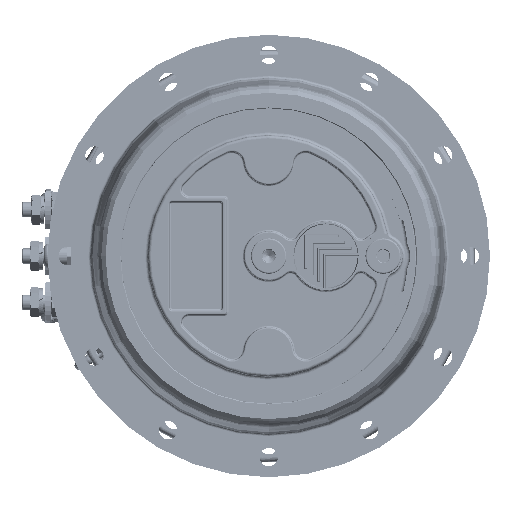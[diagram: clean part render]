
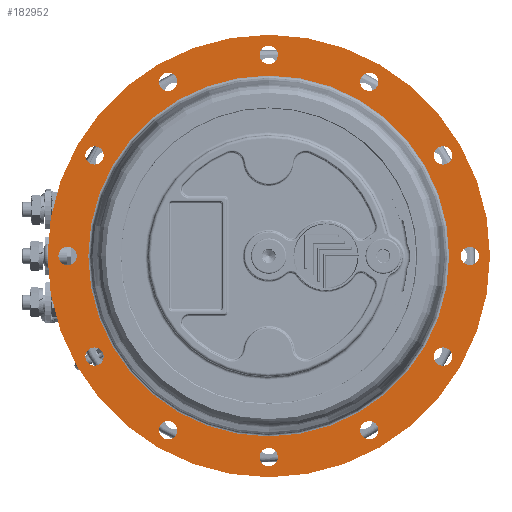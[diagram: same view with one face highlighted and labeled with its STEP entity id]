
A CAD part, left-side view. The second image highlights one B-rep face of the part: STEP entity #182952.
In plain terms, the highlighted planar face has unit normal (-1, 0, 0).
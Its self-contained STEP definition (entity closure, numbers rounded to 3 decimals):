
#10622=PLANE('',#200069);
#42812=FACE_BOUND('',#62705,.T.);
#42813=FACE_BOUND('',#62706,.T.);
#42814=FACE_BOUND('',#62707,.T.);
#42815=FACE_BOUND('',#62708,.T.);
#42816=FACE_BOUND('',#62709,.T.);
#42817=FACE_BOUND('',#62710,.T.);
#42818=FACE_BOUND('',#62711,.T.);
#42819=FACE_BOUND('',#62712,.T.);
#42820=FACE_BOUND('',#62713,.T.);
#42821=FACE_BOUND('',#62714,.T.);
#42822=FACE_BOUND('',#62715,.T.);
#42823=FACE_BOUND('',#62716,.T.);
#42824=FACE_BOUND('',#62717,.T.);
#51777=FACE_OUTER_BOUND('',#62704,.T.);
#62704=EDGE_LOOP('',(#160709));
#62705=EDGE_LOOP('',(#160710));
#62706=EDGE_LOOP('',(#160711));
#62707=EDGE_LOOP('',(#160712));
#62708=EDGE_LOOP('',(#160713));
#62709=EDGE_LOOP('',(#160714));
#62710=EDGE_LOOP('',(#160715));
#62711=EDGE_LOOP('',(#160716));
#62712=EDGE_LOOP('',(#160717));
#62713=EDGE_LOOP('',(#160718));
#62714=EDGE_LOOP('',(#160719));
#62715=EDGE_LOOP('',(#160720));
#62716=EDGE_LOOP('',(#160721));
#62717=EDGE_LOOP('',(#160722));
#70942=CIRCLE('',#200058,116.6);
#70951=CIRCLE('',#200070,143.);
#70952=CIRCLE('',#200071,5.918);
#70953=CIRCLE('',#200072,5.918);
#70954=CIRCLE('',#200073,5.918);
#70955=CIRCLE('',#200074,5.918);
#70956=CIRCLE('',#200075,5.918);
#70957=CIRCLE('',#200076,5.918);
#70958=CIRCLE('',#200077,5.918);
#70959=CIRCLE('',#200078,5.918);
#70960=CIRCLE('',#200079,5.918);
#70961=CIRCLE('',#200080,5.918);
#70962=CIRCLE('',#200081,5.918);
#70963=CIRCLE('',#200082,5.918);
#88159=VERTEX_POINT('',#326782);
#88167=VERTEX_POINT('',#326804);
#88168=VERTEX_POINT('',#326806);
#88169=VERTEX_POINT('',#326808);
#88170=VERTEX_POINT('',#326810);
#88171=VERTEX_POINT('',#326812);
#88172=VERTEX_POINT('',#326814);
#88173=VERTEX_POINT('',#326816);
#88174=VERTEX_POINT('',#326818);
#88175=VERTEX_POINT('',#326820);
#88176=VERTEX_POINT('',#326822);
#88177=VERTEX_POINT('',#326824);
#88178=VERTEX_POINT('',#326826);
#88179=VERTEX_POINT('',#326828);
#112736=EDGE_CURVE('',#88159,#88159,#70942,.T.);
#112747=EDGE_CURVE('',#88167,#88167,#70951,.T.);
#112748=EDGE_CURVE('',#88168,#88168,#70952,.T.);
#112749=EDGE_CURVE('',#88169,#88169,#70953,.T.);
#112750=EDGE_CURVE('',#88170,#88170,#70954,.T.);
#112751=EDGE_CURVE('',#88171,#88171,#70955,.T.);
#112752=EDGE_CURVE('',#88172,#88172,#70956,.T.);
#112753=EDGE_CURVE('',#88173,#88173,#70957,.T.);
#112754=EDGE_CURVE('',#88174,#88174,#70958,.T.);
#112755=EDGE_CURVE('',#88175,#88175,#70959,.T.);
#112756=EDGE_CURVE('',#88176,#88176,#70960,.T.);
#112757=EDGE_CURVE('',#88177,#88177,#70961,.T.);
#112758=EDGE_CURVE('',#88178,#88178,#70962,.T.);
#112759=EDGE_CURVE('',#88179,#88179,#70963,.T.);
#160709=ORIENTED_EDGE('',*,*,#112747,.T.);
#160710=ORIENTED_EDGE('',*,*,#112736,.T.);
#160711=ORIENTED_EDGE('',*,*,#112748,.T.);
#160712=ORIENTED_EDGE('',*,*,#112749,.T.);
#160713=ORIENTED_EDGE('',*,*,#112750,.T.);
#160714=ORIENTED_EDGE('',*,*,#112751,.T.);
#160715=ORIENTED_EDGE('',*,*,#112752,.T.);
#160716=ORIENTED_EDGE('',*,*,#112753,.T.);
#160717=ORIENTED_EDGE('',*,*,#112754,.T.);
#160718=ORIENTED_EDGE('',*,*,#112755,.T.);
#160719=ORIENTED_EDGE('',*,*,#112756,.T.);
#160720=ORIENTED_EDGE('',*,*,#112757,.T.);
#160721=ORIENTED_EDGE('',*,*,#112758,.T.);
#160722=ORIENTED_EDGE('',*,*,#112759,.T.);
#182952=ADVANCED_FACE('',(#51777,#42812,#42813,#42814,#42815,#42816,#42817,
#42818,#42819,#42820,#42821,#42822,#42823,#42824),#10622,.F.);
#200058=AXIS2_PLACEMENT_3D('',#326783,#248593,#248594);
#200069=AXIS2_PLACEMENT_3D('',#326803,#248617,#248618);
#200070=AXIS2_PLACEMENT_3D('',#326805,#248619,#248620);
#200071=AXIS2_PLACEMENT_3D('',#326807,#248621,#248622);
#200072=AXIS2_PLACEMENT_3D('',#326809,#248623,#248624);
#200073=AXIS2_PLACEMENT_3D('',#326811,#248625,#248626);
#200074=AXIS2_PLACEMENT_3D('',#326813,#248627,#248628);
#200075=AXIS2_PLACEMENT_3D('',#326815,#248629,#248630);
#200076=AXIS2_PLACEMENT_3D('',#326817,#248631,#248632);
#200077=AXIS2_PLACEMENT_3D('',#326819,#248633,#248634);
#200078=AXIS2_PLACEMENT_3D('',#326821,#248635,#248636);
#200079=AXIS2_PLACEMENT_3D('',#326823,#248637,#248638);
#200080=AXIS2_PLACEMENT_3D('',#326825,#248639,#248640);
#200081=AXIS2_PLACEMENT_3D('',#326827,#248641,#248642);
#200082=AXIS2_PLACEMENT_3D('',#326829,#248643,#248644);
#248593=DIRECTION('center_axis',(1.,0.,0.));
#248594=DIRECTION('ref_axis',(0.,0.,
1.));
#248617=DIRECTION('center_axis',(1.,0.,0.));
#248618=DIRECTION('ref_axis',(0.,0.,
1.));
#248619=DIRECTION('center_axis',(-1.,0.,0.));
#248620=DIRECTION('ref_axis',(0.,0.,
-1.));
#248621=DIRECTION('center_axis',(1.,0.,0.));
#248622=DIRECTION('ref_axis',(0.,0.,
1.));
#248623=DIRECTION('center_axis',(1.,0.,0.));
#248624=DIRECTION('ref_axis',(0.,0.5,0.866));
#248625=DIRECTION('center_axis',(1.,0.,0.));
#248626=DIRECTION('ref_axis',(0.,0.866,0.5));
#248627=DIRECTION('center_axis',(1.,0.,0.));
#248628=DIRECTION('ref_axis',(0.,1.,0.));
#248629=DIRECTION('center_axis',(1.,0.,0.));
#248630=DIRECTION('ref_axis',(0.,0.866,-0.5));
#248631=DIRECTION('center_axis',(1.,0.,0.));
#248632=DIRECTION('ref_axis',(0.,0.5,-0.866));
#248633=DIRECTION('center_axis',(1.,0.,0.));
#248634=DIRECTION('ref_axis',(0.,0.,
-1.));
#248635=DIRECTION('center_axis',(1.,0.,0.));
#248636=DIRECTION('ref_axis',(0.,-0.5,
-0.866));
#248637=DIRECTION('center_axis',(1.,0.,0.));
#248638=DIRECTION('ref_axis',(0.,-0.866,
-0.5));
#248639=DIRECTION('center_axis',(1.,0.,0.));
#248640=DIRECTION('ref_axis',(0.,-1.,0.));
#248641=DIRECTION('center_axis',(1.,0.,0.));
#248642=DIRECTION('ref_axis',(0.,-0.866,0.5));
#248643=DIRECTION('center_axis',(1.,0.,0.));
#248644=DIRECTION('ref_axis',(0.,-0.5,
0.866));
#326782=CARTESIAN_POINT('',(-306.,0.,-116.6));
#326783=CARTESIAN_POINT('Origin',(-306.,0.,0.));
#326803=CARTESIAN_POINT('Origin',(-306.,-143.,0.));
#326804=CARTESIAN_POINT('',(-306.,0.,143.));
#326805=CARTESIAN_POINT('Origin',(-306.,0.,0.));
#326806=CARTESIAN_POINT('',(-306.,0.,124.083));
#326807=CARTESIAN_POINT('Origin',(-306.,0.,130.));
#326808=CARTESIAN_POINT('',(-306.,62.041,107.459));
#326809=CARTESIAN_POINT('Origin',(-306.,65.,112.583));
#326810=CARTESIAN_POINT('',(-306.,107.459,62.041));
#326811=CARTESIAN_POINT('Origin',(-306.,112.583,65.));
#326812=CARTESIAN_POINT('',(-306.,124.083,0.));
#326813=CARTESIAN_POINT('Origin',(-306.,130.,0.));
#326814=CARTESIAN_POINT('',(-306.,107.459,-62.041));
#326815=CARTESIAN_POINT('Origin',(-306.,112.583,-65.));
#326816=CARTESIAN_POINT('',(-306.,62.041,-107.459));
#326817=CARTESIAN_POINT('Origin',(-306.,65.,-112.583));
#326818=CARTESIAN_POINT('',(-306.,0.,-124.083));
#326819=CARTESIAN_POINT('Origin',(-306.,0.,-130.));
#326820=CARTESIAN_POINT('',(-306.,-62.041,-107.459));
#326821=CARTESIAN_POINT('Origin',(-306.,-65.,-112.583));
#326822=CARTESIAN_POINT('',(-306.,-107.459,-62.041));
#326823=CARTESIAN_POINT('Origin',(-306.,-112.583,-65.));
#326824=CARTESIAN_POINT('',(-306.,-124.082,0.));
#326825=CARTESIAN_POINT('Origin',(-306.,-130.,0.));
#326826=CARTESIAN_POINT('',(-306.,-107.459,62.041));
#326827=CARTESIAN_POINT('Origin',(-306.,-112.583,65.));
#326828=CARTESIAN_POINT('',(-306.,-62.041,107.459));
#326829=CARTESIAN_POINT('Origin',(-306.,-65.,112.583));
